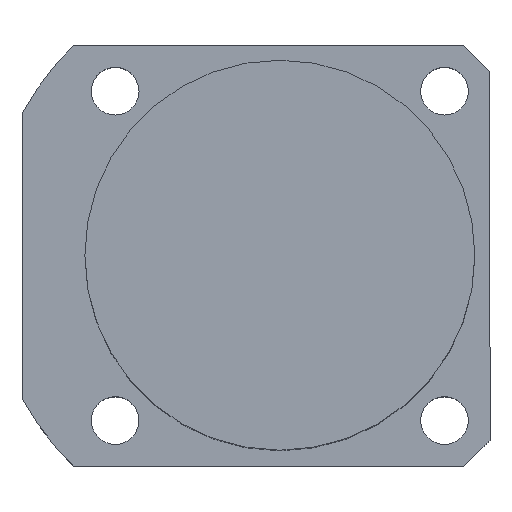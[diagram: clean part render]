
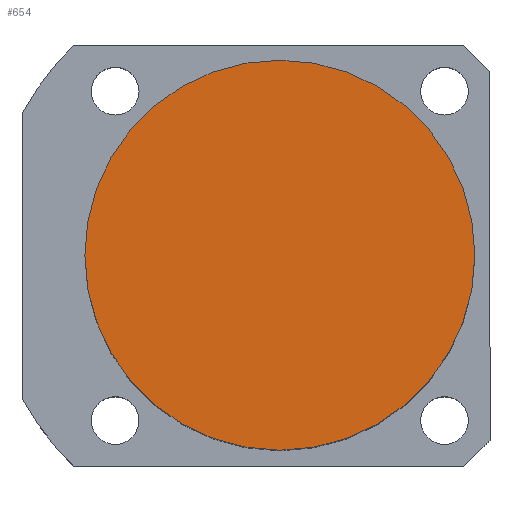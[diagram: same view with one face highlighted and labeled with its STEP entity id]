
A CAD part, top view. The second image highlights one B-rep face of the part: STEP entity #654.
In plain terms, the highlighted planar face has unit normal (0, 0, 1).
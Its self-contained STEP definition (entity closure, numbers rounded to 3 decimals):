
#173 = DIRECTION ( 'NONE',  ( 1., 0., 0. ) ) ;
#215 = AXIS2_PLACEMENT_3D ( 'NONE', #1724, #1006, #469 ) ;
#256 = ORIENTED_EDGE ( 'NONE', *, *, #1247, .T. ) ;
#314 = AXIS2_PLACEMENT_3D ( 'NONE', #1083, #1382, #812 ) ;
#417 = VERTEX_POINT ( 'NONE', #761 ) ;
#469 = DIRECTION ( 'NONE',  ( 1., 0., 0. ) ) ;
#537 = EDGE_LOOP ( 'NONE', ( #256, #1131 ) ) ;
#566 = CARTESIAN_POINT ( 'NONE',  ( 0., 0., 104.5 ) ) ;
#592 = CARTESIAN_POINT ( 'NONE',  ( -45., 0., 104.5 ) ) ;
#654 = ADVANCED_FACE ( 'NONE', ( #938 ), #1361, .T. ) ;
#761 = CARTESIAN_POINT ( 'NONE',  ( 45., 0., 104.5 ) ) ;
#812 = DIRECTION ( 'NONE',  ( 1., 0., 0. ) ) ;
#938 = FACE_OUTER_BOUND ( 'NONE', #537, .T. ) ;
#991 = DIRECTION ( 'NONE',  ( 0., 0., 1. ) ) ;
#1006 = DIRECTION ( 'NONE',  ( 0., 0., 1. ) ) ;
#1083 = CARTESIAN_POINT ( 'NONE',  ( 0., 0., 104.5 ) ) ;
#1131 = ORIENTED_EDGE ( 'NONE', *, *, #1446, .T. ) ;
#1247 = EDGE_CURVE ( 'NONE', #1292, #417, #1731, .T. ) ;
#1286 = AXIS2_PLACEMENT_3D ( 'NONE', #566, #991, #173 ) ;
#1292 = VERTEX_POINT ( 'NONE', #592 ) ;
#1361 = PLANE ( 'NONE',  #314 ) ;
#1382 = DIRECTION ( 'NONE',  ( 0., 0., 1. ) ) ;
#1446 = EDGE_CURVE ( 'NONE', #417, #1292, #1671, .T. ) ;
#1671 = CIRCLE ( 'NONE', #1286, 45. ) ;
#1724 = CARTESIAN_POINT ( 'NONE',  ( 0., 0., 104.5 ) ) ;
#1731 = CIRCLE ( 'NONE', #215, 45. ) ;
